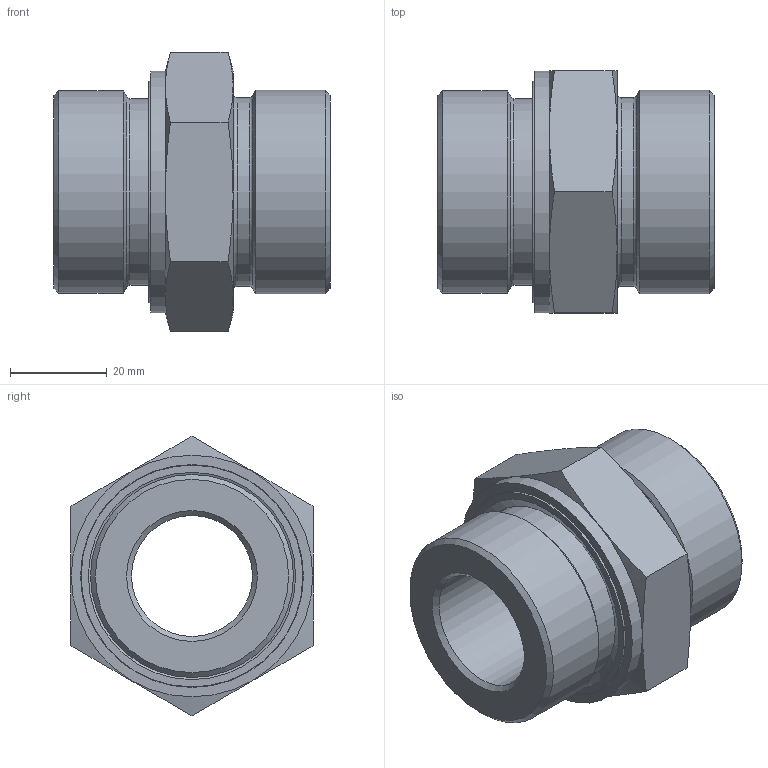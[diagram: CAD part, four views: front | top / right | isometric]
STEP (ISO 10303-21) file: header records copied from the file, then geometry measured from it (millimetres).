
FILE_DESCRIPTION( ( 'Unknown' ), '1' );
FILE_NAME( 'C:/Users/p.nanko/Desktop/3D SR/XGE30SED10.stp', 'Unknown', ( 'Peter Nanko' ), ( 'Armaturen Arndt' ), 'PSStep 14.0', 'Solid Edge ST4', ' ' );
FILE_SCHEMA( ( 'AUTOMOTIVE_DESIGN { 1 0 10303 214 1 1 1 1 }' ) );
Length unit declared in the file: millimetre
Products named in the file (3): Assem1; ED10; XGE30SED103
Assembly tree (2 placements, depth 2):
  Assem1
    ED10
    XGE30SED103
Bounding box: 57 x 50 x 57.73 mm (x, y, z)
Volume: 57921.3 mm3; surface area: 18018.9 mm2
Topology: 2 solids, 2 shells, 37 faces, 74 edges, 45 vertices
Faces by surface type: plane 14, cylinder 10, cone 9, torus 4
Full cylindrical faces by diameter (mm): 25 x1, 30 x1, 38.6 x1, 38.8 x1, 39 x1, 41.91 x1, 42 x1, 45.8 x1, 46 x1, 49.9 x1
Entity records: 1246 total; most frequent: CARTESIAN_POINT 230, DIRECTION 146, ORIENTED_EDGE 96, AXIS2_PLACEMENT_3D 70, EDGE_LOOP 68, FACE_OUTER_BOUND 51, EDGE_CURVE 48, VERTEX_POINT 42
